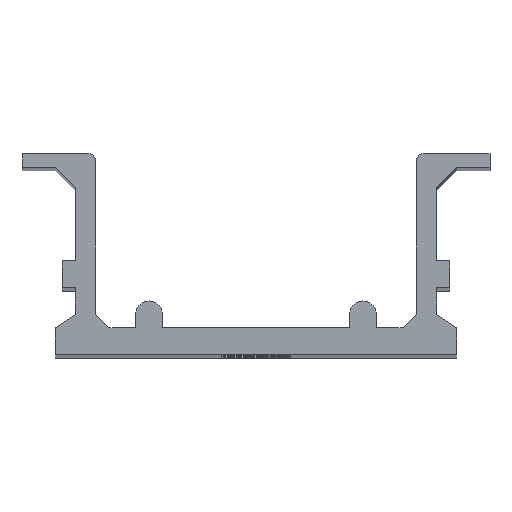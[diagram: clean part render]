
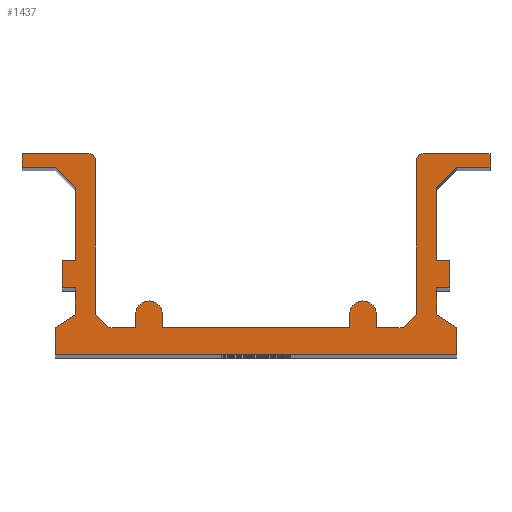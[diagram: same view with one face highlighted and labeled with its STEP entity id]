
A CAD part, top view. The second image highlights one B-rep face of the part: STEP entity #1437.
In plain terms, the highlighted planar face has unit normal (0, 0, 1).
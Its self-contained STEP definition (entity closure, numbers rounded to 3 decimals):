
#55=CIRCLE('',#1557,0.5);
#56=CIRCLE('',#1558,0.5);
#57=CIRCLE('',#1559,1.);
#58=CIRCLE('',#1560,1.);
#115=FACE_OUTER_BOUND('',#187,.T.);
#187=EDGE_LOOP('',(#1037,#1038,#1039,#1040,#1041,#1042,#1043,#1044,#1045,
#1046,#1047,#1048,#1049,#1050,#1051,#1052,#1053,#1054,#1055,#1056,#1057,
#1058,#1059,#1060,#1061,#1062,#1063,#1064,#1065,#1066,#1067,#1068,#1069,
#1070,#1071,#1072,#1073,#1074));
#299=LINE('',#2164,#469);
#300=LINE('',#2166,#470);
#301=LINE('',#2168,#471);
#302=LINE('',#2172,#472);
#303=LINE('',#2174,#473);
#304=LINE('',#2176,#474);
#305=LINE('',#2178,#475);
#306=LINE('',#2180,#476);
#307=LINE('',#2182,#477);
#308=LINE('',#2184,#478);
#309=LINE('',#2186,#479);
#310=LINE('',#2188,#480);
#311=LINE('',#2190,#481);
#312=LINE('',#2192,#482);
#313=LINE('',#2194,#483);
#314=LINE('',#2196,#484);
#315=LINE('',#2198,#485);
#316=LINE('',#2200,#486);
#317=LINE('',#2202,#487);
#318=LINE('',#2204,#488);
#319=LINE('',#2206,#489);
#320=LINE('',#2208,#490);
#321=LINE('',#2210,#491);
#322=LINE('',#2212,#492);
#323=LINE('',#2214,#493);
#324=LINE('',#2216,#494);
#325=LINE('',#2220,#495);
#326=LINE('',#2222,#496);
#327=LINE('',#2224,#497);
#328=LINE('',#2226,#498);
#329=LINE('',#2230,#499);
#330=LINE('',#2232,#500);
#331=LINE('',#2234,#501);
#332=LINE('',#2237,#502);
#469=VECTOR('',#1768,10.);
#470=VECTOR('',#1769,10.);
#471=VECTOR('',#1770,10.);
#472=VECTOR('',#1773,10.);
#473=VECTOR('',#1774,10.);
#474=VECTOR('',#1775,10.);
#475=VECTOR('',#1776,10.);
#476=VECTOR('',#1777,10.);
#477=VECTOR('',#1778,10.);
#478=VECTOR('',#1779,10.);
#479=VECTOR('',#1780,10.);
#480=VECTOR('',#1781,10.);
#481=VECTOR('',#1782,10.);
#482=VECTOR('',#1783,10.);
#483=VECTOR('',#1784,10.);
#484=VECTOR('',#1785,10.);
#485=VECTOR('',#1786,10.);
#486=VECTOR('',#1787,10.);
#487=VECTOR('',#1788,10.);
#488=VECTOR('',#1789,10.);
#489=VECTOR('',#1790,10.);
#490=VECTOR('',#1791,10.);
#491=VECTOR('',#1792,10.);
#492=VECTOR('',#1793,10.);
#493=VECTOR('',#1794,10.);
#494=VECTOR('',#1795,10.);
#495=VECTOR('',#1798,10.);
#496=VECTOR('',#1799,10.);
#497=VECTOR('',#1800,10.);
#498=VECTOR('',#1801,10.);
#499=VECTOR('',#1804,10.);
#500=VECTOR('',#1805,10.);
#501=VECTOR('',#1806,10.);
#502=VECTOR('',#1809,10.);
#639=VERTEX_POINT('',#2162);
#640=VERTEX_POINT('',#2163);
#641=VERTEX_POINT('',#2165);
#642=VERTEX_POINT('',#2167);
#643=VERTEX_POINT('',#2169);
#644=VERTEX_POINT('',#2171);
#645=VERTEX_POINT('',#2173);
#646=VERTEX_POINT('',#2175);
#647=VERTEX_POINT('',#2177);
#648=VERTEX_POINT('',#2179);
#649=VERTEX_POINT('',#2181);
#650=VERTEX_POINT('',#2183);
#651=VERTEX_POINT('',#2185);
#652=VERTEX_POINT('',#2187);
#653=VERTEX_POINT('',#2189);
#654=VERTEX_POINT('',#2191);
#655=VERTEX_POINT('',#2193);
#656=VERTEX_POINT('',#2195);
#657=VERTEX_POINT('',#2197);
#658=VERTEX_POINT('',#2199);
#659=VERTEX_POINT('',#2201);
#660=VERTEX_POINT('',#2203);
#661=VERTEX_POINT('',#2205);
#662=VERTEX_POINT('',#2207);
#663=VERTEX_POINT('',#2209);
#664=VERTEX_POINT('',#2211);
#665=VERTEX_POINT('',#2213);
#666=VERTEX_POINT('',#2215);
#667=VERTEX_POINT('',#2217);
#668=VERTEX_POINT('',#2219);
#669=VERTEX_POINT('',#2221);
#670=VERTEX_POINT('',#2223);
#671=VERTEX_POINT('',#2225);
#672=VERTEX_POINT('',#2227);
#673=VERTEX_POINT('',#2229);
#674=VERTEX_POINT('',#2231);
#675=VERTEX_POINT('',#2233);
#676=VERTEX_POINT('',#2235);
#803=EDGE_CURVE('',#639,#640,#299,.T.);
#804=EDGE_CURVE('',#640,#641,#300,.T.);
#805=EDGE_CURVE('',#641,#642,#301,.T.);
#806=EDGE_CURVE('',#642,#643,#55,.T.);
#807=EDGE_CURVE('',#643,#644,#302,.T.);
#808=EDGE_CURVE('',#644,#645,#303,.T.);
#809=EDGE_CURVE('',#645,#646,#304,.T.);
#810=EDGE_CURVE('',#646,#647,#305,.T.);
#811=EDGE_CURVE('',#647,#648,#306,.T.);
#812=EDGE_CURVE('',#648,#649,#307,.T.);
#813=EDGE_CURVE('',#649,#650,#308,.T.);
#814=EDGE_CURVE('',#650,#651,#309,.T.);
#815=EDGE_CURVE('',#651,#652,#310,.T.);
#816=EDGE_CURVE('',#652,#653,#311,.T.);
#817=EDGE_CURVE('',#653,#654,#312,.T.);
#818=EDGE_CURVE('',#654,#655,#313,.T.);
#819=EDGE_CURVE('',#655,#656,#314,.T.);
#820=EDGE_CURVE('',#656,#657,#315,.T.);
#821=EDGE_CURVE('',#657,#658,#316,.T.);
#822=EDGE_CURVE('',#658,#659,#317,.T.);
#823=EDGE_CURVE('',#659,#660,#318,.T.);
#824=EDGE_CURVE('',#660,#661,#319,.T.);
#825=EDGE_CURVE('',#661,#662,#320,.T.);
#826=EDGE_CURVE('',#662,#663,#321,.T.);
#827=EDGE_CURVE('',#663,#664,#322,.T.);
#828=EDGE_CURVE('',#664,#665,#323,.T.);
#829=EDGE_CURVE('',#665,#666,#324,.T.);
#830=EDGE_CURVE('',#666,#667,#56,.T.);
#831=EDGE_CURVE('',#667,#668,#325,.T.);
#832=EDGE_CURVE('',#668,#669,#326,.T.);
#833=EDGE_CURVE('',#669,#670,#327,.T.);
#834=EDGE_CURVE('',#670,#671,#328,.T.);
#835=EDGE_CURVE('',#671,#672,#57,.T.);
#836=EDGE_CURVE('',#672,#673,#329,.T.);
#837=EDGE_CURVE('',#673,#674,#330,.T.);
#838=EDGE_CURVE('',#674,#675,#331,.T.);
#839=EDGE_CURVE('',#675,#676,#58,.T.);
#840=EDGE_CURVE('',#676,#639,#332,.T.);
#1037=ORIENTED_EDGE('',*,*,#803,.T.);
#1038=ORIENTED_EDGE('',*,*,#804,.T.);
#1039=ORIENTED_EDGE('',*,*,#805,.T.);
#1040=ORIENTED_EDGE('',*,*,#806,.T.);
#1041=ORIENTED_EDGE('',*,*,#807,.T.);
#1042=ORIENTED_EDGE('',*,*,#808,.T.);
#1043=ORIENTED_EDGE('',*,*,#809,.T.);
#1044=ORIENTED_EDGE('',*,*,#810,.T.);
#1045=ORIENTED_EDGE('',*,*,#811,.T.);
#1046=ORIENTED_EDGE('',*,*,#812,.T.);
#1047=ORIENTED_EDGE('',*,*,#813,.T.);
#1048=ORIENTED_EDGE('',*,*,#814,.T.);
#1049=ORIENTED_EDGE('',*,*,#815,.T.);
#1050=ORIENTED_EDGE('',*,*,#816,.T.);
#1051=ORIENTED_EDGE('',*,*,#817,.T.);
#1052=ORIENTED_EDGE('',*,*,#818,.T.);
#1053=ORIENTED_EDGE('',*,*,#819,.T.);
#1054=ORIENTED_EDGE('',*,*,#820,.T.);
#1055=ORIENTED_EDGE('',*,*,#821,.T.);
#1056=ORIENTED_EDGE('',*,*,#822,.T.);
#1057=ORIENTED_EDGE('',*,*,#823,.T.);
#1058=ORIENTED_EDGE('',*,*,#824,.T.);
#1059=ORIENTED_EDGE('',*,*,#825,.T.);
#1060=ORIENTED_EDGE('',*,*,#826,.T.);
#1061=ORIENTED_EDGE('',*,*,#827,.T.);
#1062=ORIENTED_EDGE('',*,*,#828,.T.);
#1063=ORIENTED_EDGE('',*,*,#829,.T.);
#1064=ORIENTED_EDGE('',*,*,#830,.T.);
#1065=ORIENTED_EDGE('',*,*,#831,.T.);
#1066=ORIENTED_EDGE('',*,*,#832,.T.);
#1067=ORIENTED_EDGE('',*,*,#833,.T.);
#1068=ORIENTED_EDGE('',*,*,#834,.T.);
#1069=ORIENTED_EDGE('',*,*,#835,.T.);
#1070=ORIENTED_EDGE('',*,*,#836,.T.);
#1071=ORIENTED_EDGE('',*,*,#837,.T.);
#1072=ORIENTED_EDGE('',*,*,#838,.T.);
#1073=ORIENTED_EDGE('',*,*,#839,.T.);
#1074=ORIENTED_EDGE('',*,*,#840,.T.);
#1373=PLANE('',#1556);
#1437=ADVANCED_FACE('',(#115),#1373,.T.);
#1556=AXIS2_PLACEMENT_3D('',#2161,#1766,#1767);
#1557=AXIS2_PLACEMENT_3D('',#2170,#1771,#1772);
#1558=AXIS2_PLACEMENT_3D('',#2218,#1796,#1797);
#1559=AXIS2_PLACEMENT_3D('',#2228,#1802,#1803);
#1560=AXIS2_PLACEMENT_3D('',#2236,#1807,#1808);
#1766=DIRECTION('center_axis',(0.,0.,1.));
#1767=DIRECTION('ref_axis',(1.,0.,0.));
#1768=DIRECTION('',(-1.,0.,0.));
#1769=DIRECTION('',(-0.707,0.707,0.));
#1770=DIRECTION('',(0.,1.,0.));
#1771=DIRECTION('center_axis',(0.,0.,1.));
#1772=DIRECTION('ref_axis',(1.,0.,0.));
#1773=DIRECTION('',(-1.,0.,0.));
#1774=DIRECTION('',(0.,-1.,0.));
#1775=DIRECTION('',(1.,0.,0.));
#1776=DIRECTION('',(0.707,-0.707,0.));
#1777=DIRECTION('',(0.,-1.,0.));
#1778=DIRECTION('',(-1.,0.,0.));
#1779=DIRECTION('',(0.,-1.,0.));
#1780=DIRECTION('',(1.,0.,0.));
#1781=DIRECTION('',(0.,-1.,0.));
#1782=DIRECTION('',(-0.832,-0.555,0.));
#1783=DIRECTION('',(0.,-1.,0.));
#1784=DIRECTION('',(1.,0.,0.));
#1785=DIRECTION('',(0.,1.,0.));
#1786=DIRECTION('',(-0.832,0.555,0.));
#1787=DIRECTION('',(0.,1.,0.));
#1788=DIRECTION('',(1.,0.,0.));
#1789=DIRECTION('',(0.,1.,0.));
#1790=DIRECTION('',(-1.,0.,0.));
#1791=DIRECTION('',(0.,1.,0.));
#1792=DIRECTION('',(0.707,0.707,0.));
#1793=DIRECTION('',(1.,0.,0.));
#1794=DIRECTION('',(0.,1.,0.));
#1795=DIRECTION('',(-1.,0.,0.));
#1796=DIRECTION('center_axis',(0.,0.,1.));
#1797=DIRECTION('ref_axis',(0.,1.,0.));
#1798=DIRECTION('',(0.,-1.,0.));
#1799=DIRECTION('',(-0.707,-0.707,0.));
#1800=DIRECTION('',(-1.,0.,0.));
#1801=DIRECTION('',(0.,1.,0.));
#1802=DIRECTION('center_axis',(0.,0.,1.));
#1803=DIRECTION('ref_axis',(1.,0.,0.));
#1804=DIRECTION('',(0.,-1.,0.));
#1805=DIRECTION('',(-1.,0.,0.));
#1806=DIRECTION('',(0.,1.,0.));
#1807=DIRECTION('center_axis',(0.,0.,1.));
#1808=DIRECTION('ref_axis',(1.,0.,0.));
#1809=DIRECTION('',(0.,-1.,0.));
#2161=CARTESIAN_POINT('Origin',(0.,7.5,157.));
#2162=CARTESIAN_POINT('',(-9.,2.,157.));
#2163=CARTESIAN_POINT('',(-11.,2.,157.));
#2164=CARTESIAN_POINT('',(-9.,2.,157.));
#2165=CARTESIAN_POINT('',(-12.,3.,157.));
#2166=CARTESIAN_POINT('',(-11.,2.,157.));
#2167=CARTESIAN_POINT('',(-12.,14.5,157.));
#2168=CARTESIAN_POINT('',(-12.,3.,157.));
#2169=CARTESIAN_POINT('',(-12.5,15.,157.));
#2170=CARTESIAN_POINT('Origin',(-12.5,14.5,157.));
#2171=CARTESIAN_POINT('',(-17.5,15.,157.));
#2172=CARTESIAN_POINT('',(-12.5,15.,157.));
#2173=CARTESIAN_POINT('',(-17.5,14.,157.));
#2174=CARTESIAN_POINT('',(-17.5,15.,157.));
#2175=CARTESIAN_POINT('',(-15.,14.,157.));
#2176=CARTESIAN_POINT('',(-17.5,14.,157.));
#2177=CARTESIAN_POINT('',(-13.5,12.5,157.));
#2178=CARTESIAN_POINT('',(-15.,14.,157.));
#2179=CARTESIAN_POINT('',(-13.5,7.,157.));
#2180=CARTESIAN_POINT('',(-13.5,12.5,157.));
#2181=CARTESIAN_POINT('',(-14.5,7.,157.));
#2182=CARTESIAN_POINT('',(-13.5,7.,157.));
#2183=CARTESIAN_POINT('',(-14.5,5.,157.));
#2184=CARTESIAN_POINT('',(-14.5,7.,157.));
#2185=CARTESIAN_POINT('',(-13.5,5.,157.));
#2186=CARTESIAN_POINT('',(-14.5,5.,157.));
#2187=CARTESIAN_POINT('',(-13.5,3.,157.));
#2188=CARTESIAN_POINT('',(-13.5,5.,157.));
#2189=CARTESIAN_POINT('',(-15.,2.,157.));
#2190=CARTESIAN_POINT('',(-13.5,3.,157.));
#2191=CARTESIAN_POINT('',(-15.,0.,157.));
#2192=CARTESIAN_POINT('',(-15.,2.,157.));
#2193=CARTESIAN_POINT('',(15.,0.,157.));
#2194=CARTESIAN_POINT('',(-15.,0.,157.));
#2195=CARTESIAN_POINT('',(15.,2.,157.));
#2196=CARTESIAN_POINT('',(15.,0.,157.));
#2197=CARTESIAN_POINT('',(13.5,3.,157.));
#2198=CARTESIAN_POINT('',(15.,2.,157.));
#2199=CARTESIAN_POINT('',(13.5,5.,157.));
#2200=CARTESIAN_POINT('',(13.5,3.,157.));
#2201=CARTESIAN_POINT('',(14.5,5.,157.));
#2202=CARTESIAN_POINT('',(13.5,5.,157.));
#2203=CARTESIAN_POINT('',(14.5,7.,157.));
#2204=CARTESIAN_POINT('',(14.5,5.,157.));
#2205=CARTESIAN_POINT('',(13.5,7.,157.));
#2206=CARTESIAN_POINT('',(14.5,7.,157.));
#2207=CARTESIAN_POINT('',(13.5,12.5,157.));
#2208=CARTESIAN_POINT('',(13.5,7.,157.));
#2209=CARTESIAN_POINT('',(15.,14.,157.));
#2210=CARTESIAN_POINT('',(13.5,12.5,157.));
#2211=CARTESIAN_POINT('',(17.5,14.,157.));
#2212=CARTESIAN_POINT('',(15.,14.,157.));
#2213=CARTESIAN_POINT('',(17.5,15.,157.));
#2214=CARTESIAN_POINT('',(17.5,14.,157.));
#2215=CARTESIAN_POINT('',(12.5,15.,157.));
#2216=CARTESIAN_POINT('',(17.5,15.,157.));
#2217=CARTESIAN_POINT('',(12.,14.5,157.));
#2218=CARTESIAN_POINT('Origin',(12.5,14.5,157.));
#2219=CARTESIAN_POINT('',(12.,3.,157.));
#2220=CARTESIAN_POINT('',(12.,14.5,157.));
#2221=CARTESIAN_POINT('',(11.,2.,157.));
#2222=CARTESIAN_POINT('',(12.,3.,157.));
#2223=CARTESIAN_POINT('',(9.,2.,157.));
#2224=CARTESIAN_POINT('',(11.,2.,157.));
#2225=CARTESIAN_POINT('',(9.,3.,157.));
#2226=CARTESIAN_POINT('',(9.,2.,157.));
#2227=CARTESIAN_POINT('',(7.,3.,157.));
#2228=CARTESIAN_POINT('Origin',(8.,3.,157.));
#2229=CARTESIAN_POINT('',(7.,2.,157.));
#2230=CARTESIAN_POINT('',(7.,3.,157.));
#2231=CARTESIAN_POINT('',(-7.,2.,157.));
#2232=CARTESIAN_POINT('',(7.,2.,157.));
#2233=CARTESIAN_POINT('',(-7.,3.,157.));
#2234=CARTESIAN_POINT('',(-7.,2.,157.));
#2235=CARTESIAN_POINT('',(-9.,3.,157.));
#2236=CARTESIAN_POINT('Origin',(-8.,3.,157.));
#2237=CARTESIAN_POINT('',(-9.,3.,157.));
